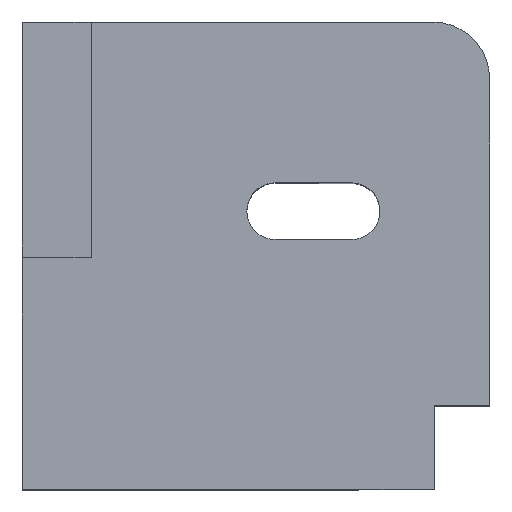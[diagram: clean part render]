
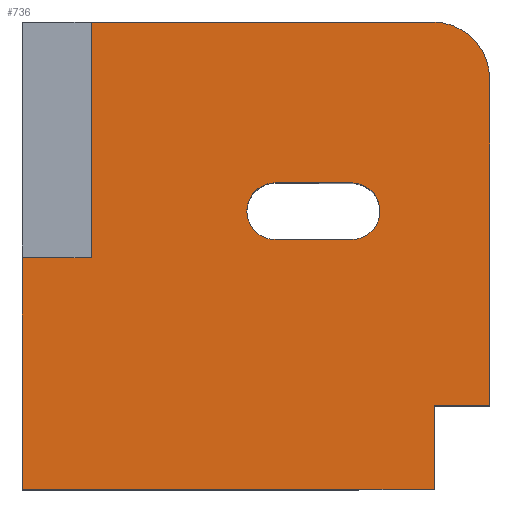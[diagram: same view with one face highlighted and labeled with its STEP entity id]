
A CAD part, top view. The second image highlights one B-rep face of the part: STEP entity #736.
In plain terms, the highlighted planar face has unit normal (0, 0, 1).
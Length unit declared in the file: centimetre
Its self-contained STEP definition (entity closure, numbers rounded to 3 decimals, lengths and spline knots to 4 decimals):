
#44 = EDGE_CURVE ( 'NONE', #288, #541, #438, .T. ) ;
#94 = LINE ( 'NONE', #1204, #148 ) ;
#101 = VERTEX_POINT ( 'NONE', #321 ) ;
#122 = ORIENTED_EDGE ( 'NONE', *, *, #155, .T. ) ;
#128 = VECTOR ( 'NONE', #607, 100. ) ;
#134 = LINE ( 'NONE', #958, #866 ) ;
#140 = DIRECTION ( 'NONE',  ( 0., 0., 1. ) ) ;
#148 = VECTOR ( 'NONE', #296, 100. ) ;
#155 = EDGE_CURVE ( 'NONE', #181, #1090, #205, .T. ) ;
#165 = ORIENTED_EDGE ( 'NONE', *, *, #294, .T. ) ;
#181 = VERTEX_POINT ( 'NONE', #1137 ) ;
#184 = EDGE_CURVE ( 'NONE', #1044, #288, #1036, .T. ) ;
#188 = CARTESIAN_POINT ( 'NONE',  ( 878.2128, 878.2128, 1000. ) ) ;
#194 = CARTESIAN_POINT ( 'NONE',  ( 0., 1000., 1000. ) ) ;
#198 = LINE ( 'NONE', #553, #1181 ) ;
#203 = EDGE_CURVE ( 'NONE', #1044, #905, #363, .T. ) ;
#205 = LINE ( 'NONE', #194, #615 ) ;
#214 = CARTESIAN_POINT ( 'NONE',  ( 0., 0., 1000. ) ) ;
#216 = VERTEX_POINT ( 'NONE', #280 ) ;
#230 = FACE_OUTER_BOUND ( 'NONE', #351, .T. ) ;
#273 = EDGE_CURVE ( 'NONE', #845, #469, #344, .T. ) ;
#280 = CARTESIAN_POINT ( 'NONE',  ( 704.5986, 534.4149, 1000. ) ) ;
#288 = VERTEX_POINT ( 'NONE', #312 ) ;
#294 = EDGE_CURVE ( 'NONE', #404, #845, #770, .T. ) ;
#296 = DIRECTION ( 'NONE',  ( 0., -1., 0. ) ) ;
#298 = DIRECTION ( 'NONE',  ( 1., 0., 0. ) ) ;
#307 = CARTESIAN_POINT ( 'NONE',  ( 1000., 1000., 1000. ) ) ;
#311 = VECTOR ( 'NONE', #342, 100. ) ;
#312 = CARTESIAN_POINT ( 'NONE',  ( 0., 0., 1000. ) ) ;
#320 = VECTOR ( 'NONE', #750, 100. ) ;
#321 = CARTESIAN_POINT ( 'NONE',  ( 1000., 179.593, 1000. ) ) ;
#342 = DIRECTION ( 'NONE',  ( 1., 0., 0. ) ) ;
#344 = CIRCLE ( 'NONE', #1154, 60.7093 ) ;
#351 = EDGE_LOOP ( 'NONE', ( #1174, #1027, #902, #685, #122, #813, #1028, #1105, #860 ) ) ;
#354 = CARTESIAN_POINT ( 'NONE',  ( 541.0972, 655.8334, 1000. ) ) ;
#362 = EDGE_CURVE ( 'NONE', #101, #1192, #771, .T. ) ;
#363 = LINE ( 'NONE', #676, #320 ) ;
#368 = VECTOR ( 'NONE', #929, 100. ) ;
#383 = DIRECTION ( 'NONE',  ( 0., 0., 1. ) ) ;
#386 = CIRCLE ( 'NONE', #883, 121.7872 ) ;
#390 = EDGE_CURVE ( 'NONE', #101, #642, #495, .T. ) ;
#395 = CARTESIAN_POINT ( 'NONE',  ( 704.5986, 655.8334, 1000. ) ) ;
#404 = VERTEX_POINT ( 'NONE', #961 ) ;
#408 = DIRECTION ( 'NONE',  ( -1., 0., 0. ) ) ;
#438 = LINE ( 'NONE', #1082, #311 ) ;
#445 = AXIS2_PLACEMENT_3D ( 'NONE', #214, #140, #298 ) ;
#462 = ORIENTED_EDGE ( 'NONE', *, *, #273, .T. ) ;
#465 = DIRECTION ( 'NONE',  ( 0., 0., -1. ) ) ;
#469 = VERTEX_POINT ( 'NONE', #354 ) ;
#472 = CARTESIAN_POINT ( 'NONE',  ( 1000., 878.2128, 1000. ) ) ;
#495 = LINE ( 'NONE', #307, #128 ) ;
#501 = VECTOR ( 'NONE', #408, 100. ) ;
#511 = CARTESIAN_POINT ( 'NONE',  ( 0., 495.1524, 1000. ) ) ;
#541 = VERTEX_POINT ( 'NONE', #949 ) ;
#546 = DIRECTION ( 'NONE',  ( 0., -1., 0. ) ) ;
#548 = ORIENTED_EDGE ( 'NONE', *, *, #656, .T. ) ;
#553 = CARTESIAN_POINT ( 'NONE',  ( 541.0972, 534.4149, 1000. ) ) ;
#556 = ORIENTED_EDGE ( 'NONE', *, *, #1033, .T. ) ;
#582 = DIRECTION ( 'NONE',  ( -1., 0., 0. ) ) ;
#585 = CARTESIAN_POINT ( 'NONE',  ( 147.3316, 1000., 1000. ) ) ;
#607 = DIRECTION ( 'NONE',  ( 0., 1., 0. ) ) ;
#613 = EDGE_CURVE ( 'NONE', #642, #181, #386, .T. ) ;
#615 = VECTOR ( 'NONE', #582, 100. ) ;
#629 = EDGE_CURVE ( 'NONE', #469, #921, #1131, .T. ) ;
#642 = VERTEX_POINT ( 'NONE', #472 ) ;
#656 = EDGE_CURVE ( 'NONE', #921, #216, #1022, .T. ) ;
#676 = CARTESIAN_POINT ( 'NONE',  ( 0., 495.1524, 1000. ) ) ;
#679 = CARTESIAN_POINT ( 'NONE',  ( 881.1191, 179.593, 1000. ) ) ;
#682 = DIRECTION ( 'NONE',  ( 1., 0., 0. ) ) ;
#685 = ORIENTED_EDGE ( 'NONE', *, *, #613, .T. ) ;
#687 = CARTESIAN_POINT ( 'NONE',  ( 541.0972, 595.1241, 1000. ) ) ;
#718 = CARTESIAN_POINT ( 'NONE',  ( 147.3316, 495.1524, 1000. ) ) ;
#736 = ADVANCED_FACE ( 'NONE', ( #230, #870 ), #1136, .T. ) ;
#747 = EDGE_LOOP ( 'NONE', ( #165, #462, #1084, #548, #556 ) ) ;
#750 = DIRECTION ( 'NONE',  ( 1., 0., 0. ) ) ;
#770 = CIRCLE ( 'NONE', #944, 60.7093 ) ;
#771 = LINE ( 'NONE', #980, #501 ) ;
#780 = DIRECTION ( 'NONE',  ( 0., 1., 0. ) ) ;
#806 = VECTOR ( 'NONE', #546, 100. ) ;
#813 = ORIENTED_EDGE ( 'NONE', *, *, #1126, .F. ) ;
#833 = DIRECTION ( 'NONE',  ( 1., 0., 0. ) ) ;
#837 = DIRECTION ( 'NONE',  ( 1., 0., 0. ) ) ;
#845 = VERTEX_POINT ( 'NONE', #1184 ) ;
#860 = ORIENTED_EDGE ( 'NONE', *, *, #44, .T. ) ;
#866 = VECTOR ( 'NONE', #780, 100. ) ;
#870 = FACE_BOUND ( 'NONE', #747, .T. ) ;
#883 = AXIS2_PLACEMENT_3D ( 'NONE', #188, #383, #837 ) ;
#902 = ORIENTED_EDGE ( 'NONE', *, *, #390, .T. ) ;
#905 = VERTEX_POINT ( 'NONE', #718 ) ;
#921 = VERTEX_POINT ( 'NONE', #982 ) ;
#923 = DIRECTION ( 'NONE',  ( -1., 0., 0. ) ) ;
#924 = CARTESIAN_POINT ( 'NONE',  ( 704.5986, 595.1241, 1000. ) ) ;
#929 = DIRECTION ( 'NONE',  ( 1., 0., 0. ) ) ;
#944 = AXIS2_PLACEMENT_3D ( 'NONE', #1052, #1165, #956 ) ;
#949 = CARTESIAN_POINT ( 'NONE',  ( 881.1191, 0., 1000. ) ) ;
#956 = DIRECTION ( 'NONE',  ( 1., 0., 0. ) ) ;
#958 = CARTESIAN_POINT ( 'NONE',  ( 147.3316, 495.1524, 1000. ) ) ;
#961 = CARTESIAN_POINT ( 'NONE',  ( 541.0972, 534.4149, 1000. ) ) ;
#968 = AXIS2_PLACEMENT_3D ( 'NONE', #924, #465, #833 ) ;
#980 = CARTESIAN_POINT ( 'NONE',  ( 881.1191, 179.593, 1000. ) ) ;
#982 = CARTESIAN_POINT ( 'NONE',  ( 704.5986, 655.8334, 1000. ) ) ;
#1022 = CIRCLE ( 'NONE', #968, 60.7093 ) ;
#1027 = ORIENTED_EDGE ( 'NONE', *, *, #362, .F. ) ;
#1028 = ORIENTED_EDGE ( 'NONE', *, *, #203, .F. ) ;
#1033 = EDGE_CURVE ( 'NONE', #216, #404, #198, .T. ) ;
#1036 = LINE ( 'NONE', #1194, #806 ) ;
#1037 = EDGE_CURVE ( 'NONE', #1192, #541, #94, .T. ) ;
#1044 = VERTEX_POINT ( 'NONE', #511 ) ;
#1052 = CARTESIAN_POINT ( 'NONE',  ( 541.0972, 595.1241, 1000. ) ) ;
#1072 = DIRECTION ( 'NONE',  ( 0., 0., -1. ) ) ;
#1082 = CARTESIAN_POINT ( 'NONE',  ( 0., 0., 1000. ) ) ;
#1084 = ORIENTED_EDGE ( 'NONE', *, *, #629, .T. ) ;
#1090 = VERTEX_POINT ( 'NONE', #585 ) ;
#1105 = ORIENTED_EDGE ( 'NONE', *, *, #184, .T. ) ;
#1126 = EDGE_CURVE ( 'NONE', #905, #1090, #134, .T. ) ;
#1131 = LINE ( 'NONE', #395, #368 ) ;
#1136 = PLANE ( 'NONE',  #445 ) ;
#1137 = CARTESIAN_POINT ( 'NONE',  ( 878.2128, 1000., 1000. ) ) ;
#1154 = AXIS2_PLACEMENT_3D ( 'NONE', #687, #1072, #682 ) ;
#1165 = DIRECTION ( 'NONE',  ( 0., 0., -1. ) ) ;
#1174 = ORIENTED_EDGE ( 'NONE', *, *, #1037, .F. ) ;
#1181 = VECTOR ( 'NONE', #923, 100. ) ;
#1184 = CARTESIAN_POINT ( 'NONE',  ( 480.3879, 595.1241, 1000. ) ) ;
#1192 = VERTEX_POINT ( 'NONE', #679 ) ;
#1194 = CARTESIAN_POINT ( 'NONE',  ( 0., 1000., 1000. ) ) ;
#1204 = CARTESIAN_POINT ( 'NONE',  ( 881.1191, 0., 1000. ) ) ;
